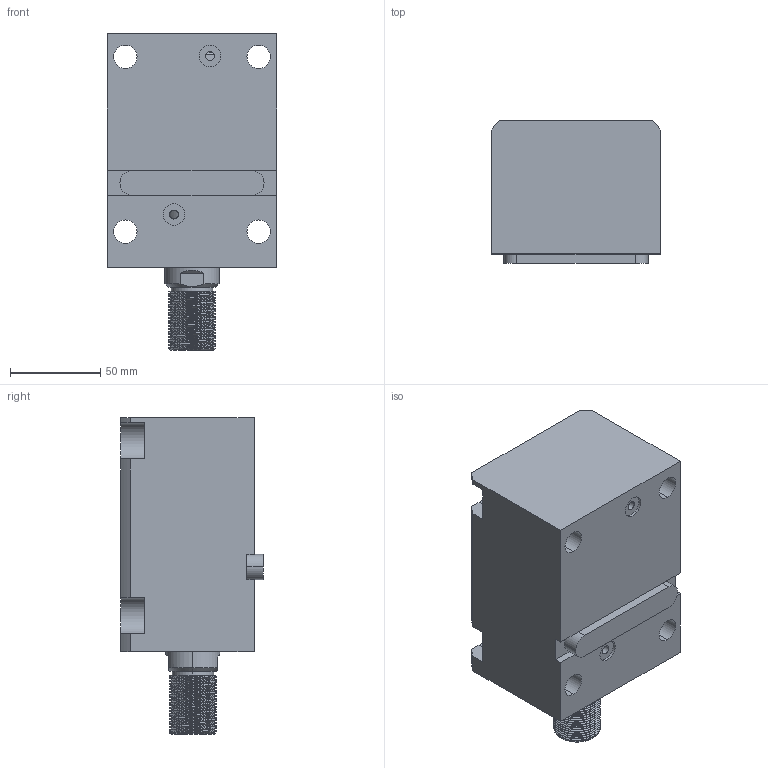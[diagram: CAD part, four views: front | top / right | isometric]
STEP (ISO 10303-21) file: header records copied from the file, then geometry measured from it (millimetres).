
FILE_DESCRIPTION (( 'STEP AP203' ), '1' );
FILE_NAME ('CHTB-LAM50-70W.STEP', '2018-05-14T10:17:23', ( '' ), ( '' ), 'SwSTEP 2.0', 'SolidWorks 2015', '' );
FILE_SCHEMA (( 'CONFIG_CONTROL_DESIGN' ));
Length unit declared in the file: millimetre
Products named in the file (4): 活塞杆LAM50-70W; CHTB-LAM50-70W; 掛极LAM50-70W; CHTM-SDMA50QG
Assembly tree (3 placements, depth 2):
  CHTB-LAM50-70W
    掛极LAM50-70W
    活塞杆LAM50-70W
    CHTM-SDMA50QG
Bounding box: 94 x 79 x 176 mm (x, y, z)
Volume: 787755.2 mm3; surface area: 126983.9 mm2
Topology: 3 solids, 3 shells, 234 faces, 650 edges, 435 vertices
Faces by surface type: cylinder 136, plane 53, bspline 16, torus 16, cone 13
Entity records: 14782 total; most frequent: CARTESIAN_POINT 8857, ORIENTED_EDGE 1292, DIRECTION 1021, EDGE_CURVE 646, VERTEX_POINT 435, AXIS2_PLACEMENT_3D 394, EDGE_LOOP 265, ADVANCED_FACE 234
